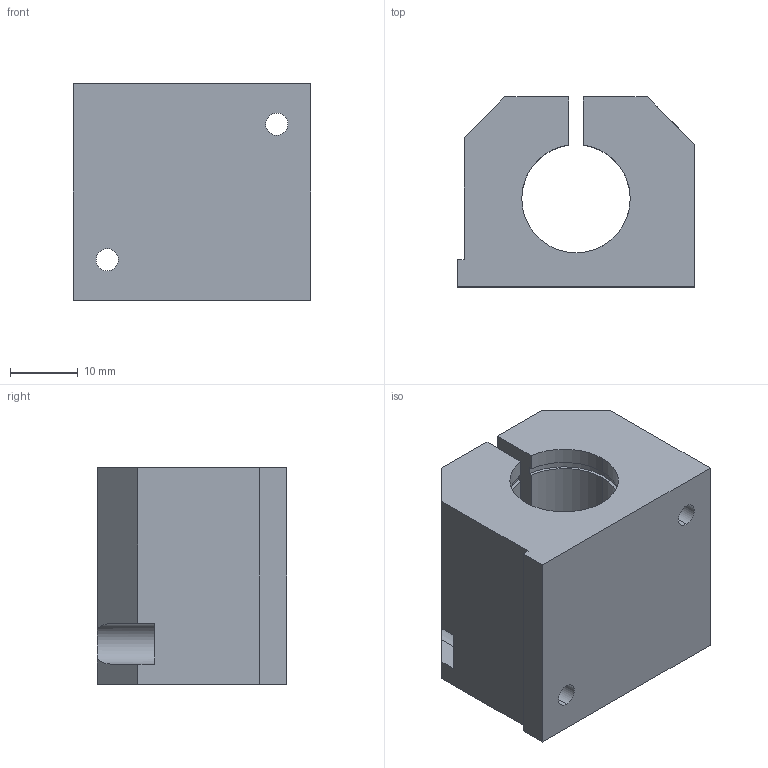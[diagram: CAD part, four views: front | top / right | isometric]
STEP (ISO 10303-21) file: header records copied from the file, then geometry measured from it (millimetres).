
FILE_DESCRIPTION (( 'STEP AP214' ), '1' );
FILE_NAME ('KGE36-08.step', '2020-03-04T13:19:12', ( '' ), ( '' ), 'SwSTEP 2.0', 'SolidWorks 2019', '' );
FILE_SCHEMA (( 'AUTOMOTIVE_DESIGN' ));
Length unit declared in the file: millimetre
Products named in the file (1): KGE36-08
Bounding box: 35 x 28 x 32 mm (x, y, z)
Volume: 20723.2 mm3; surface area: 8219.5 mm2
Topology: 1 solids, 1 shells, 61 faces, 171 edges, 111 vertices
Faces by surface type: cylinder 31, plane 26, cone 4
Entity records: 2155 total; most frequent: CARTESIAN_POINT 418, DIRECTION 345, ORIENTED_EDGE 338, EDGE_CURVE 169, AXIS2_PLACEMENT_3D 122, VERTEX_POINT 111, LINE 101, VECTOR 101
